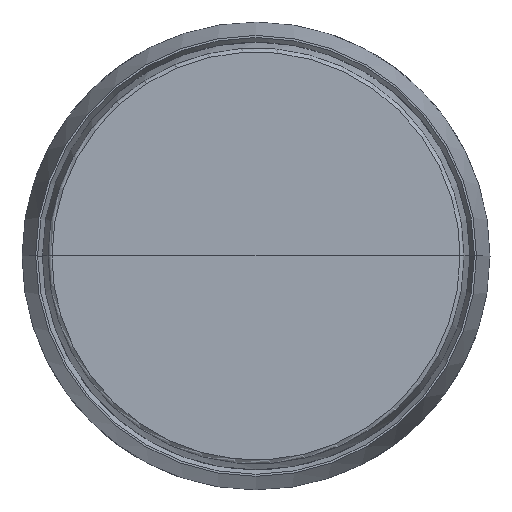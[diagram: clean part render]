
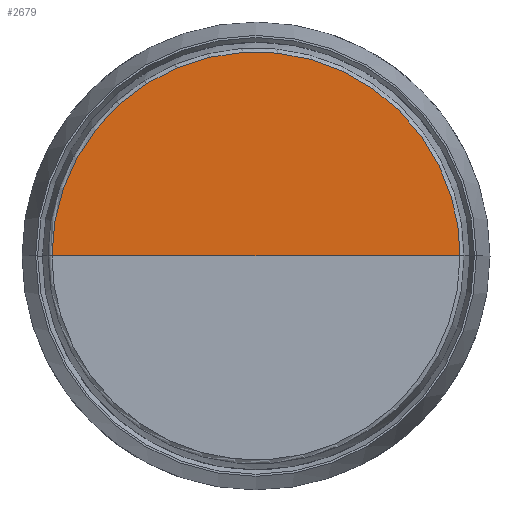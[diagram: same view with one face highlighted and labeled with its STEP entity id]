
A CAD part, top view. The second image highlights one B-rep face of the part: STEP entity #2679.
In plain terms, the highlighted planar face has unit normal (0, 0, 1).
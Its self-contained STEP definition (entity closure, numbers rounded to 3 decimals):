
#150=B_SPLINE_CURVE_WITH_KNOTS('',3,(#8839,#8840,#8841,#8842,#8843,#8844,
#8845,#8846,#8847,#8848,#8849,#8850,#8851,#8852),.UNSPECIFIED.,.F.,.F.,
(4,1,1,1,1,1,1,1,1,1,1,4),(0.,0.091,0.182,0.273,
0.364,0.455,0.545,0.636,
0.727,0.818,0.909,1.),.UNSPECIFIED.);
#250=PLANE('',#3010);
#419=FACE_OUTER_BOUND('',#621,.T.);
#621=EDGE_LOOP('',(#2421,#2422));
#772=LINE('',#8823,#920);
#920=VECTOR('',#3801,304.8);
#1303=VERTEX_POINT('',#8821);
#1304=VERTEX_POINT('',#8822);
#1675=EDGE_CURVE('',#1303,#1304,#772,.T.);
#1677=EDGE_CURVE('',#1303,#1304,#150,.T.);
#2421=ORIENTED_EDGE('',*,*,#1675,.T.);
#2422=ORIENTED_EDGE('',*,*,#1677,.F.);
#2679=ADVANCED_FACE('',(#419),#250,.T.);
#3010=AXIS2_PLACEMENT_3D('',#8838,#3802,#3803);
#3801=DIRECTION('',(1.,0.,0.));
#3802=DIRECTION('center_axis',(0.,0.,1.));
#3803=DIRECTION('ref_axis',(1.,0.,0.));
#8821=CARTESIAN_POINT('',(-152.583,0.,65.));
#8822=CARTESIAN_POINT('',(152.583,0.,65.));
#8823=CARTESIAN_POINT('',(-152.583,0.,65.));
#8838=CARTESIAN_POINT('Origin',(0.,0.,65.));
#8839=CARTESIAN_POINT('Ctrl Pts',(-152.583,0.,
65.));
#8840=CARTESIAN_POINT('Ctrl Pts',(-152.641,14.542,65.));
#8841=CARTESIAN_POINT('Ctrl Pts',(-148.379,43.568,65.));
#8842=CARTESIAN_POINT('Ctrl Pts',(-130.125,83.624,65.));
#8843=CARTESIAN_POINT('Ctrl Pts',(-101.286,116.892,65.));
#8844=CARTESIAN_POINT('Ctrl Pts',(-64.253,140.694,65.));
#8845=CARTESIAN_POINT('Ctrl Pts',(-22.012,153.097,65.));
#8846=CARTESIAN_POINT('Ctrl Pts',(22.012,153.097,65.));
#8847=CARTESIAN_POINT('Ctrl Pts',(64.253,140.694,65.));
#8848=CARTESIAN_POINT('Ctrl Pts',(101.286,116.892,65.));
#8849=CARTESIAN_POINT('Ctrl Pts',(130.125,83.624,65.));
#8850=CARTESIAN_POINT('Ctrl Pts',(148.379,43.568,65.));
#8851=CARTESIAN_POINT('Ctrl Pts',(152.641,14.542,65.));
#8852=CARTESIAN_POINT('Ctrl Pts',(152.583,0.,
65.));
